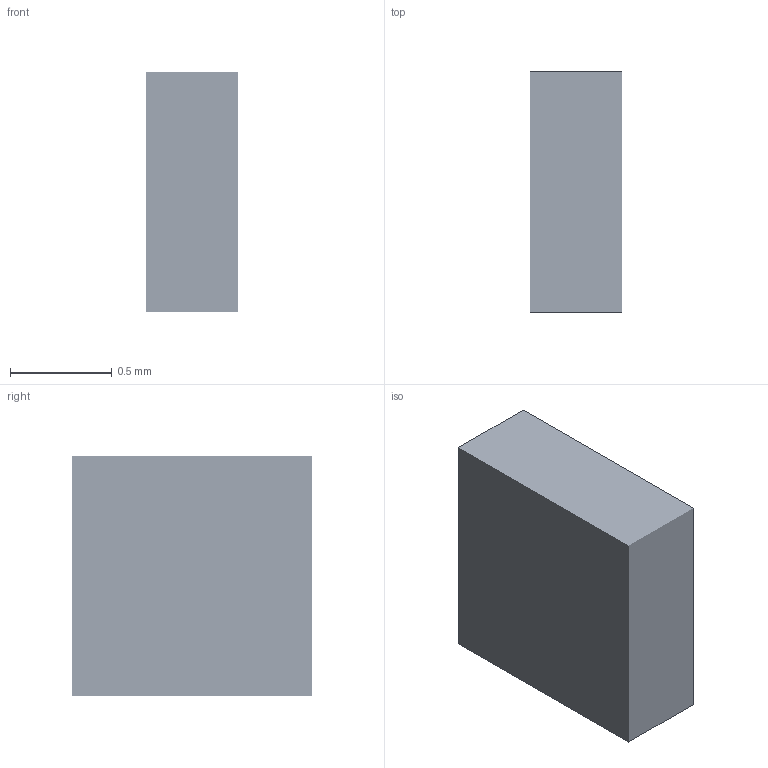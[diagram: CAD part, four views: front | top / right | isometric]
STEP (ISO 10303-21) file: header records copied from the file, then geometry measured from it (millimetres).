
FILE_DESCRIPTION(/* description */ ('STEP AP242 Edition 2','CAx-IF Rec.Pracs.---Representation and Presentation of Product Manufacturing Information (PMI)---4.0---2014-10-13','CAx-IF Rec.Pracs.---3D Tessellated Geometry---0.4---2014-09-14','2;1','CAx-IF Rec.Pracs.---User Defined Attributes---1.5---2016-08-15'),/* implementation_level */ '2;1');
FILE_NAME(/* name */ 'Assembly 1 - Part 74',/* time_stamp */ '2026-03-29T21:14:58Z',/* author */ (''),/* organization */ (''),/* preprocessor_version */ 'ST-DEVELOPER v20',/* originating_system */ 'ONSHAPE BY PTC INC, 1.212',/* authorisation */ ' ');
FILE_SCHEMA (('AP242_MANAGED_MODEL_BASED_3D_ENGINEERING_MIM_LF { 1 0 10303 442 3 1 4 }'));
Length unit declared in the file: metre
Products named in the file (1): Part 74
Bounding box: 0.45 x 1.18 x 1.18 mm (x, y, z)
Surface area: 4.9 mm2 (no closed solid volume)
Topology: 0 solids, 1 shells, 1 faces, 0 edges, 0 vertices
Faces by surface type: other 1
Entity records: 31 total; most frequent: DIRECTION 2, SHAPE_REPRESENTATION_RELATIONSHIP 1, TESSELLATED_SHAPE_REPRESENTATION 1, STYLED_ITEM 1, PRESENTATION_STYLE_ASSIGNMENT 1, SURFACE_STYLE_USAGE 1, SURFACE_SIDE_STYLE 1, SURFACE_STYLE_FILL_AREA 1
